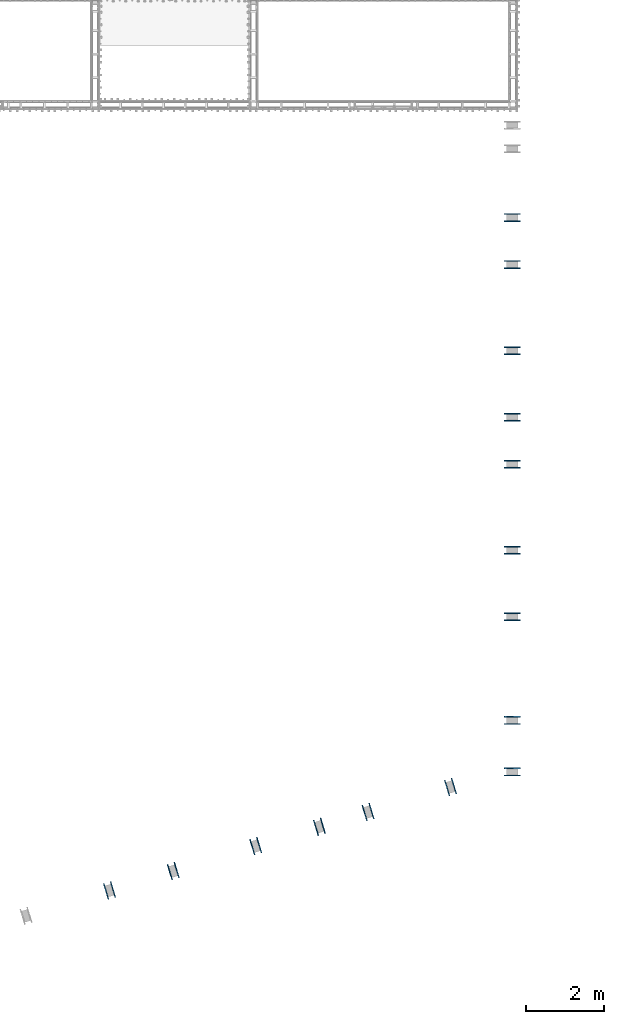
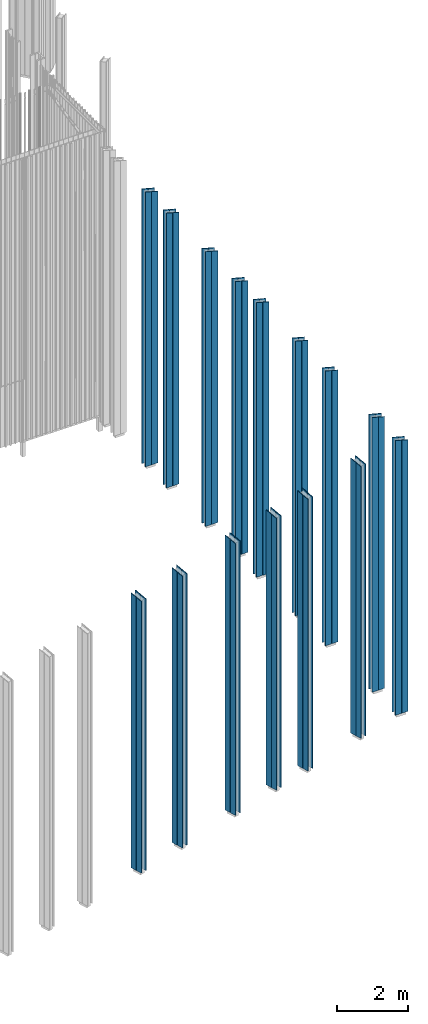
# One storey, part 36 of 390: 60 discrete accessories.
"""IFC2X3 building model written with IfcOpenShell, lengths in millimetres."""

from ifc_helpers import new_model, entity, si_unit, converted_unit, derived_unit, money_unit, direction, frame, origin_with_axes, place, context, subcontext, project, spatial, faceted_brep, source, transform, mapped, material, type_object, element, save


model = new_model("IFC2X3")

# Units and contexts
model_context = context("Model", 3, precision=1e-05, world=origin_with_axes(), true_north=direction((0.0, 1.0)))
body_context = subcontext(model_context, "Body", "Model", "MODEL_VIEW")
ifc_project = project(units=[si_unit("LENGTHUNIT", "METRE", prefix="MILLI"), si_unit("AREAUNIT", "SQUARE_METRE"), si_unit("VOLUMEUNIT", "CUBIC_METRE"), converted_unit("PLANEANGLEUNIT", "DEGREE", entity("IfcPlaneAngleMeasure", 0.0174532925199), si_unit("PLANEANGLEUNIT", "RADIAN"), dimensions=[0, 0, 0, 0, 0, 0, 0]), si_unit("SOLIDANGLEUNIT", "STERADIAN"), money_unit("EUR"), converted_unit("TIMEUNIT", "Year", entity("IfcTimeMeasure", 31556926.0), si_unit("TIMEUNIT", "SECOND"), dimensions=[0, 0, 1, 0, 0, 0, 0]), si_unit("MASSUNIT", "GRAM", prefix="KILO"), si_unit("THERMODYNAMICTEMPERATUREUNIT", "DEGREE_CELSIUS"), si_unit("LUMINOUSINTENSITYUNIT", "LUMEN"), si_unit("ENERGYUNIT", "JOULE", prefix="MEGA"), derived_unit("THERMALCONDUCTANCEUNIT", [(si_unit("POWERUNIT", "WATT"), 1), (si_unit("LENGTHUNIT", "METRE"), -1), (si_unit("THERMODYNAMICTEMPERATUREUNIT", "KELVIN"), -1)]), derived_unit("SPECIFICHEATCAPACITYUNIT", [(si_unit("ENERGYUNIT", "JOULE"), 1), (si_unit("MASSUNIT", "GRAM", prefix="KILO"), -1), (si_unit("THERMODYNAMICTEMPERATUREUNIT", "KELVIN"), -1)]), derived_unit("MASSDENSITYUNIT", [(si_unit("MASSUNIT", "GRAM", prefix="KILO"), 1), (si_unit("VOLUMEUNIT", "CUBIC_METRE"), -1)])], contexts=[model_context])

# Site, building, storey
site_placement = place(None, origin_with_axes())
site = spatial("IfcSite", under=ifc_project, at=site_placement, Name="Site", CompositionType="ELEMENT")
building_placement = place(site_placement, origin_with_axes())
building = spatial("IfcBuilding", under=site, at=building_placement, Name="Building", CompositionType="ELEMENT")
storey_placement = place(building_placement, origin_with_axes())
storey = spatial("IfcBuildingStorey", under=building, at=storey_placement, Name="1 korrus", CompositionType="ELEMENT", Elevation=0.0)

# Discrete accessories
ifc_material = material(Name="GENEERILINE - VÄLINE VOODER")
discrete_accessory_type = type_object("IfcDiscreteAccessoryType", Name="GENEERILINE - VÄLINE VOODER")
shared_shape_1 = source(origin_with_axes(), body_context, "Body", "Brep", [
    faceted_brep([(162190.360855, 119453.798876, 100.0), (162190.360855, 119453.798876, 9600.0), (162168.524839, 119456.480002, 9600.0), (162168.524839, 119456.480002, 100.0), (162214.734723, 119652.308107, 100.0), (162214.734723, 119652.308107, 9546.41016151), (162192.898708, 119654.989232, 9546.41016151), (162192.898708, 119654.989232, 100.0)], [[[0, 1, 2, 3]], [[1, 0, 4, 5]], [[2, 1, 5, 6]], [[3, 2, 6, 7]], [[0, 3, 7, 4]], [[7, 6, 5, 4]]]),
])
for number, where, z_axis, x_axis in (
    (1, (1090.55889165, 186223.662485, 0.0), (0.0, 0.0, 1.0), (0.121869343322, -0.992546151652, 0.0)),
    (2, (1090.55889165, 181123.662485, 0.0), (0.0, 0.0, 1.0), (0.121869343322, -0.992546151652, 0.0)),
    (3, (1090.55889165, 185023.662485, 0.0), (0.0, 0.0, 1.0), (0.121869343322, -0.992546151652, 0.0)),
    (4, (1090.55889165, 182823.662485, 0.0), (0.0, 0.0, 1.0), (0.121869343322, -0.992546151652, 0.0)),
    (5, (234647.077075, 199266.021296, 0.0), (0.0, 0.0, 1.0), (-0.914362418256, -0.404896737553, 0.0)),
    (6, (233018.733353, 198771.768927, 0.0), (0.0, 0.0, 1.0), (-0.914362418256, -0.404896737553, 0.0)),
    (7, (230911.465006, 198132.148213, 0.0), (0.0, 0.0, 1.0), (-0.914362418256, -0.404896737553, 0.0)),
    (8, (237996.744742, 200282.74839, 0.0), (0.0, 0.0, 1.0), (-0.914362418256, -0.404896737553, 0.0)),
    (9, (235889.476396, 199643.127677, 0.0), (0.0, 0.0, 1.0), (-0.914362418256, -0.404896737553, 0.0)),
    (10, (229283.121284, 197637.895844, 0.0), (0.0, 0.0, 1.0), (-0.914362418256, -0.404896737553, 0.0)),
    (11, (1090.55889436, 172058.346073, 0.0), (0.0, 0.0, 1.0), (0.121869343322, -0.992546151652, 0.0)),
    (12, (1090.55889165, 173373.281233, 0.0), (0.0, 0.0, 1.0), (0.121869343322, -0.992546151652, 0.0)),
    (13, (1090.55889165, 176023.662485, 0.0), (0.0, 0.0, 1.0), (0.121869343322, -0.992546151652, 0.0)),
    (14, (1090.55889165, 177723.662485, 0.0), (0.0, 0.0, 1.0), (0.121869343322, -0.992546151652, 0.0)),
    (15, (1090.55889165, 179923.662485, 0.0), (0.0, 0.0, 1.0), (0.121869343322, -0.992546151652, 0.0)),
):
    element("IfcDiscreteAccessory", number, at=place(storey_placement, frame(where, z_axis=z_axis, x_axis=x_axis)), inside=storey, type_object=discrete_accessory_type, material=ifc_material, Name="Päikesevarjestuspost", context=body_context, shape_type="MappedRepresentation", body=[
        mapped(shared_shape_1, transform((0.0, 0.0, 0.0))),
    ])
shared_shape_2 = source(origin_with_axes(), body_context, "Body", "Brep", [
    faceted_brep([(162194.117401, 119664.914694, 100.0), (162215.953417, 119662.233568, 100.0), (162215.953417, 119662.233568, 9543.73066959), (162194.117401, 119664.914694, 9543.73066959), (162218.49127, 119863.423924, 100.0), (162240.327285, 119860.742798, 100.0), (162240.327285, 119860.742798, 9490.1408311), (162218.49127, 119863.423924, 9490.1408311)], [[[0, 1, 2, 3]], [[1, 0, 4, 5]], [[2, 1, 5, 6]], [[3, 2, 6, 7]], [[0, 3, 7, 4]], [[4, 7, 6, 5]]]),
])
for number, where, z_axis, x_axis in (
    (16, (1090.55889165, 186223.662485, 0.0), (0.0, 0.0, 1.0), (0.121869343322, -0.992546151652, 0.0)),
    (17, (1090.55889165, 185023.662485, 0.0), (0.0, 0.0, 1.0), (0.121869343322, -0.992546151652, 0.0)),
    (18, (1090.55889165, 182823.662485, 0.0), (0.0, 0.0, 1.0), (0.121869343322, -0.992546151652, 0.0)),
    (19, (234647.077075, 199266.021296, 0.0), (0.0, 0.0, 1.0), (-0.914362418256, -0.404896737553, 0.0)),
    (20, (233018.733353, 198771.768927, 0.0), (0.0, 0.0, 1.0), (-0.914362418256, -0.404896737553, 0.0)),
    (21, (230911.465006, 198132.148213, 0.0), (0.0, 0.0, 1.0), (-0.914362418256, -0.404896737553, 0.0)),
    (22, (237996.744742, 200282.74839, 0.0), (0.0, 0.0, 1.0), (-0.914362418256, -0.404896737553, 0.0)),
    (23, (235889.476396, 199643.127677, 0.0), (0.0, 0.0, 1.0), (-0.914362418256, -0.404896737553, 0.0)),
    (24, (229283.121284, 197637.895844, 0.0), (0.0, 0.0, 1.0), (-0.914362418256, -0.404896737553, 0.0)),
    (25, (1090.55889436, 172058.346073, 0.0), (0.0, 0.0, 1.0), (0.121869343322, -0.992546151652, 0.0)),
    (26, (1090.55889165, 173373.281233, 0.0), (0.0, 0.0, 1.0), (0.121869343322, -0.992546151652, 0.0)),
    (27, (1090.55889165, 176023.662485, 0.0), (0.0, 0.0, 1.0), (0.121869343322, -0.992546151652, 0.0)),
    (28, (1090.55889165, 177723.662485, 0.0), (0.0, 0.0, 1.0), (0.121869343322, -0.992546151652, 0.0)),
    (29, (1090.55889165, 179923.662485, 0.0), (0.0, 0.0, 1.0), (0.121869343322, -0.992546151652, 0.0)),
    (30, (1090.55889165, 181123.662485, 0.0), (0.0, 0.0, 1.0), (0.121869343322, -0.992546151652, 0.0)),
):
    element("IfcDiscreteAccessory", number, at=place(storey_placement, frame(where, z_axis=z_axis, x_axis=x_axis)), inside=storey, type_object=discrete_accessory_type, material=ifc_material, Name="Päikesevarjestuspost", context=body_context, shape_type="MappedRepresentation", body=[
        mapped(shared_shape_2, transform((0.0, 0.0, 0.0))),
    ])
shared_shape_3 = source(origin_with_axes(), body_context, "Body", "Brep", [
    faceted_brep([(-162194.117401, 119664.914694, 100.0), (-162194.117401, 119664.914694, 9543.73066959), (-162215.953417, 119662.233568, 9543.73066959), (-162215.953417, 119662.233568, 100.0), (-162218.49127, 119863.423924, 100.0), (-162218.49127, 119863.423924, 9490.1408311), (-162240.327285, 119860.742798, 9490.1408311), (-162240.327285, 119860.742798, 100.0)], [[[0, 1, 2, 3]], [[0, 4, 5, 1]], [[1, 5, 6, 2]], [[2, 6, 7, 3]], [[3, 7, 4, 0]], [[4, 7, 6, 5]]]),
])
for number, where, z_axis, x_axis in (
    (31, (1090.55889161, -107983.662465, 0.0), (0.0, 0.0, 1.0), (-0.121869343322, -0.992546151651, 0.0)),
    (32, (1090.55889161, -106783.662465, 0.0), (0.0, 0.0, 1.0), (-0.121869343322, -0.992546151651, 0.0)),
    (33, (1090.55889161, -110183.662465, 0.0), (0.0, 0.0, 1.0), (-0.121869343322, -0.992546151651, 0.0)),
    (34, (-45729.112006, 114163.230092, 0.0), (0.0, 0.0, 1.0), (-0.985155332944, -0.171665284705, 0.0)),
    (35, (-47357.455728, 113668.977722, 0.0), (0.0, 0.0, 1.0), (-0.985155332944, -0.171665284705, 0.0)),
    (36, (-49464.7240745, 113029.357009, 0.0), (0.0, 0.0, 1.0), (-0.985155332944, -0.171665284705, 0.0)),
    (37, (-42379.4443389, 115179.957186, 0.0), (0.0, 0.0, 1.0), (-0.985155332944, -0.171665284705, 0.0)),
    (38, (-44486.7126848, 114540.336473, 0.0), (0.0, 0.0, 1.0), (-0.985155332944, -0.171665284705, 0.0)),
    (39, (-51093.0677966, 112535.104639, 0.0), (0.0, 0.0, 1.0), (-0.985155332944, -0.171665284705, 0.0)),
    (40, (1090.55889433, -120948.978877, 0.0), (0.0, 0.0, 1.0), (-0.121869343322, -0.992546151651, 0.0)),
    (41, (1090.55889161, -119634.043717, 0.0), (0.0, 0.0, 1.0), (-0.121869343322, -0.992546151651, 0.0)),
    (42, (1090.55889161, -116983.662465, 0.0), (0.0, 0.0, 1.0), (-0.121869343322, -0.992546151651, 0.0)),
    (43, (1090.55889161, -115283.662465, 0.0), (0.0, 0.0, 1.0), (-0.121869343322, -0.992546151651, 0.0)),
    (44, (1090.55889161, -113083.662465, 0.0), (0.0, 0.0, 1.0), (-0.121869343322, -0.992546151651, 0.0)),
    (45, (1090.55889161, -111883.662465, 0.0), (0.0, 0.0, 1.0), (-0.121869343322, -0.992546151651, 0.0)),
):
    element("IfcDiscreteAccessory", number, at=place(storey_placement, frame(where, z_axis=z_axis, x_axis=x_axis)), inside=storey, type_object=discrete_accessory_type, material=ifc_material, Name="Päikesevarjestuspost", context=body_context, shape_type="MappedRepresentation", body=[
        mapped(shared_shape_3, transform((0.0, 0.0, 0.0))),
    ])
shared_shape_4 = source(origin_with_axes(), body_context, "Body", "Brep", [
    faceted_brep([(-162190.360855, 119453.798876, 100.0), (-162168.524839, 119456.480002, 100.0), (-162168.524839, 119456.480002, 9600.0), (-162190.360855, 119453.798876, 9600.0), (-162214.734723, 119652.308107, 100.0), (-162192.898708, 119654.989232, 100.0), (-162192.898708, 119654.989232, 9546.41016151), (-162214.734723, 119652.308107, 9546.41016151)], [[[0, 1, 2, 3]], [[0, 4, 5, 1]], [[1, 5, 6, 2]], [[2, 6, 7, 3]], [[3, 7, 4, 0]], [[5, 4, 7, 6]]]),
])
for number, where, z_axis, x_axis in (
    (46, (1090.55889161, -107983.662465, 0.0), (0.0, 0.0, 1.0), (-0.121869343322, -0.992546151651, 0.0)),
    (47, (1090.55889161, -106783.662465, 0.0), (0.0, 0.0, 1.0), (-0.121869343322, -0.992546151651, 0.0)),
    (48, (1090.55889161, -110183.662465, 0.0), (0.0, 0.0, 1.0), (-0.121869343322, -0.992546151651, 0.0)),
    (49, (-47357.455728, 113668.977722, 0.0), (0.0, 0.0, 1.0), (-0.985155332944, -0.171665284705, 0.0)),
    (50, (-49464.7240745, 113029.357009, 0.0), (0.0, 0.0, 1.0), (-0.985155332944, -0.171665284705, 0.0)),
    (51, (-45729.112006, 114163.230092, 0.0), (0.0, 0.0, 1.0), (-0.985155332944, -0.171665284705, 0.0)),
    (52, (-42379.4443389, 115179.957186, 0.0), (0.0, 0.0, 1.0), (-0.985155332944, -0.171665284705, 0.0)),
    (53, (-44486.7126848, 114540.336473, 0.0), (0.0, 0.0, 1.0), (-0.985155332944, -0.171665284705, 0.0)),
    (54, (-51093.0677966, 112535.104639, 0.0), (0.0, 0.0, 1.0), (-0.985155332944, -0.171665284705, 0.0)),
    (55, (1090.55889433, -120948.978877, 0.0), (0.0, 0.0, 1.0), (-0.121869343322, -0.992546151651, 0.0)),
    (56, (1090.55889161, -119634.043717, 0.0), (0.0, 0.0, 1.0), (-0.121869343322, -0.992546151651, 0.0)),
    (57, (1090.55889161, -116983.662465, 0.0), (0.0, 0.0, 1.0), (-0.121869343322, -0.992546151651, 0.0)),
    (58, (1090.55889161, -115283.662465, 0.0), (0.0, 0.0, 1.0), (-0.121869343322, -0.992546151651, 0.0)),
    (59, (1090.55889161, -113083.662465, 0.0), (0.0, 0.0, 1.0), (-0.121869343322, -0.992546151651, 0.0)),
    (60, (1090.55889161, -111883.662465, 0.0), (0.0, 0.0, 1.0), (-0.121869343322, -0.992546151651, 0.0)),
):
    element("IfcDiscreteAccessory", number, at=place(storey_placement, frame(where, z_axis=z_axis, x_axis=x_axis)), inside=storey, type_object=discrete_accessory_type, material=ifc_material, Name="Päikesevarjestuspost", context=body_context, shape_type="MappedRepresentation", body=[
        mapped(shared_shape_4, transform((0.0, 0.0, 0.0))),
    ])

save(model, "model.ifc")
